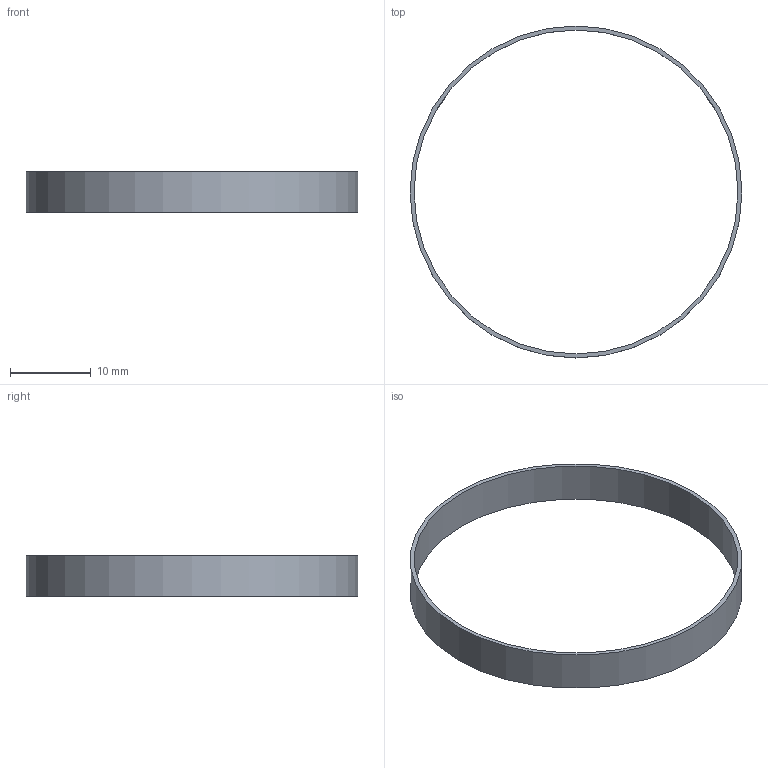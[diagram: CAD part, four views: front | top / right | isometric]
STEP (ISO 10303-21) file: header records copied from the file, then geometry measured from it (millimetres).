
FILE_DESCRIPTION(/* description */ (''),/* implementation_level */ '2;1');
FILE_NAME(/* name */ '105_centering_ring.stp',/* time_stamp */ '2020-11-09T14:48:47+01:00',/* author */ (''),/* organization */ (''),/* preprocessor_version */ 'ST-DEVELOPER v16.7',/* originating_system */ 'SIEMENS PLM Software NX 12.0',/* authorisation */ '');
FILE_SCHEMA (('AUTOMOTIVE_DESIGN { 1 0 10303 214 3 1 1 1 }'));
Length unit declared in the file: millimetre
Products named in the file (1): bez430C4A55itge
Bounding box: 41 x 41 x 5 mm (x, y, z)
Volume: 318.1 mm3; surface area: 1399.6 mm2
Topology: 1 solids, 1 shells, 4 faces, 6 edges, 4 vertices
Faces by surface type: cylinder 2, plane 2
Full cylindrical faces by diameter (mm): 40 x1, 41 x1
Entity records: 120 total; most frequent: DIRECTION 18, CARTESIAN_POINT 13, AXIS2_PLACEMENT_3D 9, FACE_BOUND 8, EDGE_LOOP 8, ORIENTED_EDGE 8, ADVANCED_FACE 4, VERTEX_POINT 4
